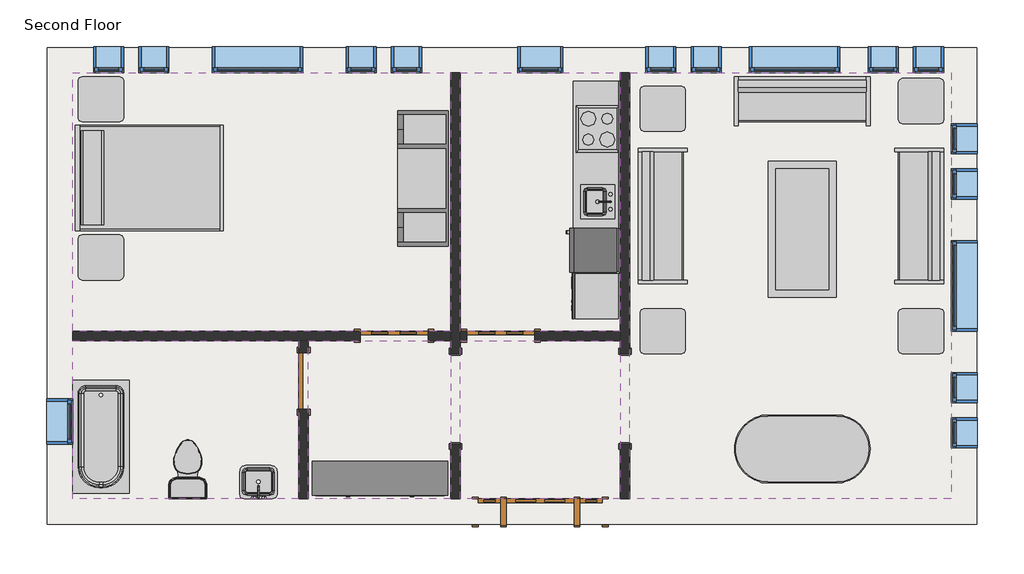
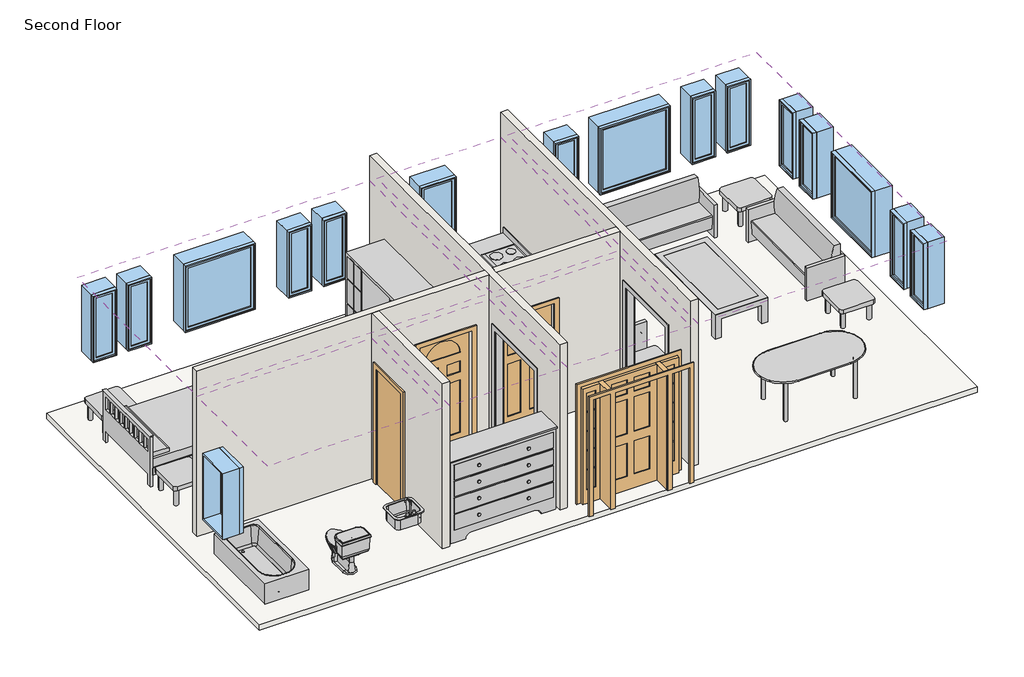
# One storey, incomplete: 17 windows, 15 furniture elements, 6 coverings, 6 proxies, 4 doors, 4 flow terminals, 4 walls, 1 slab.
"""IFC4 building model written with IfcOpenShell, lengths in millimetres."""

from ifc_helpers import new_model, si_unit, frame, origin, place, context, project, spatial, polyline, outline, extrude, faceted_brep, transform, mapped, element, save
from components import proxy_a6faaae8, proxy_45b28599, proxy_a6516e2b, proxy_f44482cc, proxy_c523a7b7, door_829da954, door_2e3b4da2, door_4d6c7550, door_ffdb1193, flow_terminal_871c2e40, flow_terminal_62a433f7, toilet_domestic_3d_toilet_domestic_3d_f7549cf7, toilet_domestic_3d_toilet_domestic_3d_183bbd19, tub_rectangular_3d_tub_rectangular_3d_c56944d8, furniture_096e7f55, furniture_dc2eca4b, furniture_7c473f12, furniture_cf0b6580, furniture_a4ffab56, furniture_cd93a443, furniture_2c34a4f9, furniture_3a588284, window_da97879f, window_d61ef850, window_60baf983, window_6eb97611

model = new_model("IFC4")

# Units and contexts
model_context = context("Model", 3, world=origin())
ifc_project = project(units=[si_unit("LENGTHUNIT", "METRE", prefix="MILLI")], contexts=[model_context])

# Site, building, storey
site = spatial("IfcSite", under=ifc_project)
building = spatial("IfcBuilding", under=site)
storey = spatial("IfcBuildingStorey", under=building, Name="Second Floor", Elevation=3048.0)

# Proxies
placement = place(None, origin())
proxy_shape = proxy_a6faaae8(model_context)
element("IfcBuildingElementProxy", 1, Name="Cook Top-4 Unit2 : 22\" x 20\"", ObjectType="Cook Top-4 Unit2 : 22\" x 20\"", at=placement, inside=storey, context=model_context, shape_type="MappedRepresentation", body=[
    mapped(proxy_shape, transform((2840.1428612, 5164.2241162, 3048.0), x_axis=(0.0, -1.0000000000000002, 0.0), y_axis=(1.0000000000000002, 0.0, 0.0), z_axis=(0.0, 0.0, 1.0))),
])
proxy_2_shape = proxy_45b28599(model_context)
element("IfcBuildingElementProxy", 2, Name="Dishwasher : 24\" x 24\" x 34\"", ObjectType="Dishwasher : 24\" x 24\" x 34\"", at=placement, inside=storey, context=model_context, shape_type="MappedRepresentation", body=[
    mapped(proxy_2_shape, transform((2548.2932964, 3298.6415847, 3048.0), x_axis=(0.0, -1.0000000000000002, 0.0), y_axis=(1.0000000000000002, 0.0, 0.0), z_axis=(0.0, 0.0, 1.0))),
])
proxy_3_shape = proxy_a6516e2b(model_context)
element("IfcBuildingElementProxy", 3, Name="Kitchenette - Medium : 8' 6\"", ObjectType="Kitchenette - Medium : 8' 6\"", at=placement, inside=storey, context=model_context, shape_type="MappedRepresentation", body=[
    mapped(proxy_3_shape, transform((3144.9428612, 4535.2618211, 3048.0), x_axis=(0.0, -1.0000000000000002, 0.0), y_axis=(1.0000000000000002, 0.0, 0.0), z_axis=(0.0, 0.0, 1.0))),
])
proxy_4_shape = proxy_f44482cc(model_context)
element("IfcBuildingElementProxy", 4, Name="Passage Opening-Cased : 48\" x 84\"", ObjectType="Passage Opening-Cased : 48\" x 84\"", at=placement, inside=storey, context=model_context, shape_type="MappedRepresentation", body=[
    mapped(proxy_4_shape, transform((3208.4428612, 1537.2944757, 3048.0), x_axis=(0.0, 1.0, 0.0), y_axis=(-1.0, 0.0, 0.0), z_axis=(0.0, 0.0, 1.0))),
])
element("IfcBuildingElementProxy", 5, Name="Passage Opening-Cased : 48\" x 84\"", ObjectType="Passage Opening-Cased : 48\" x 84\"", at=placement, inside=storey, context=model_context, shape_type="MappedRepresentation", body=[
    mapped(proxy_4_shape, transform((922.4428612, 1537.2944757, 3048.0), x_axis=(0.0, 1.0, 0.0), y_axis=(-1.0, 0.0, 0.0), z_axis=(0.0, 0.0, 1.0))),
])
proxy_5_shape = proxy_c523a7b7(model_context)
element("IfcBuildingElementProxy", 6, Name="Refrigerator : 24\" x 25\" LH", ObjectType="Refrigerator : 24\" x 25\" LH", at=placement, inside=storey, context=model_context, shape_type="MappedRepresentation", body=[
    mapped(proxy_5_shape, transform((2794.4938897, 3532.2741162, 3048.0), x_axis=(0.0, -1.0000000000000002, 0.0), y_axis=(1.0000000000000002, 0.0, 0.0), z_axis=(0.0, 0.0, 1.0))),
])

# Coverings
element("IfcCovering", 7, ObjectType="GWB on Mtl. Stud", at=placement, inside=storey, context=model_context, shape_type="SweptSolid", body=[
    extrude(outline(polyline([(-4235.3446388, 5924.893319), (858.9428612, 5924.893319), (858.9428612, 2441.918319), (-4235.3446388, 2441.918319), (-4235.3446388, 5924.893319)])), frame((0.0, 0.0, 5638.8), z_axis=(0.0, 0.0, 1.0), x_axis=(1.0, 0.0, 0.0)), (0.0, 0.0, 1.0), 107.95),
])
element("IfcCovering", 8, ObjectType="GWB on Mtl. Stud", at=placement, inside=storey, context=model_context, shape_type="SweptSolid", body=[
    extrude(outline(polyline([(-1187.3446388, 2314.918319), (-1187.3446388, 181.318319), (-4235.3446388, 181.318319), (-4235.3446388, 2314.918319), (-1187.3446388, 2314.918319)])), frame((0.0, 0.0, 5638.8), z_axis=(0.0, 0.0, 1.0), x_axis=(1.0, 0.0, 0.0)), (0.0, 0.0, 1.0), 107.95),
])
element("IfcCovering", 9, ObjectType="GWB on Mtl. Stud", at=placement, inside=storey, context=model_context, shape_type="SweptSolid", body=[
    extrude(outline(polyline([(858.9428612, 181.318319), (-1060.3446388, 181.318319), (-1060.3446388, 2314.918319), (858.9428612, 2314.918319), (858.9428612, 181.318319)])), frame((0.0, 0.0, 5638.8), z_axis=(0.0, 0.0, 1.0), x_axis=(1.0, 0.0, 0.0)), (0.0, 0.0, 1.0), 107.95),
])
element("IfcCovering", 10, ObjectType="GWB on Mtl. Stud", at=placement, inside=storey, context=model_context, shape_type="SweptSolid", body=[
    extrude(outline(polyline([(3144.9428612, 181.318319), (985.9428612, 181.318319), (985.9428612, 2314.918319), (3144.9428612, 2314.918319), (3144.9428612, 181.318319)])), frame((0.0, 0.0, 5638.8), z_axis=(0.0, 0.0, 1.0), x_axis=(1.0, 0.0, 0.0)), (0.0, 0.0, 1.0), 107.95),
])
element("IfcCovering", 11, ObjectType="GWB on Mtl. Stud", at=placement, inside=storey, context=model_context, shape_type="SweptSolid", body=[
    extrude(outline(polyline([(985.9428612, 2441.918319), (985.9428612, 5924.893319), (3144.9428612, 5924.893319), (3144.9428612, 2441.918319), (985.9428612, 2441.918319)])), frame((0.0, 0.0, 5638.8), z_axis=(0.0, 0.0, 1.0), x_axis=(1.0, 0.0, 0.0)), (0.0, 0.0, 1.0), 107.95),
])
element("IfcCovering", 12, ObjectType="GWB on Mtl. Stud", at=placement, inside=storey, context=model_context, shape_type="SweptSolid", body=[
    extrude(outline(polyline([(3271.9428612, 181.318319), (3271.9428612, 5924.893319), (7604.2303612, 5924.893319), (7604.2303612, 181.318319), (3271.9428612, 181.318319)])), frame((0.0, 0.0, 5638.8), z_axis=(0.0, 0.0, 1.0), x_axis=(1.0, 0.0, 0.0)), (0.0, 0.0, 1.0), 107.95),
])

# Doors
door_shape = door_829da954(model_context)
element("IfcDoor", 13, ObjectType="Single-Decorative 2 : 36\" x 84\"", at=placement, inside=storey, context=model_context, shape_type="MappedRepresentation", body=[
    mapped(door_shape, transform((1532.0428612, 2378.418319, 3048.0), x_axis=(-1.0, 0.0, 0.0), y_axis=(0.0, -1.0, 0.0), z_axis=(0.0, 0.0, 1.0))),
])
door_2_shape = door_2e3b4da2(model_context)
element("IfcDoor", 14, ObjectType="Single-Decorative 2 : 36\" x 84\"", at=placement, inside=storey, context=model_context, shape_type="MappedRepresentation", body=[
    mapped(door_2_shape, transform((95.3553612, 2378.418319, 3048.0), x_axis=(1.0, 0.0, 0.0), y_axis=(0.0, 1.0, 0.0), z_axis=(0.0, 0.0, 1.0))),
])
door_3_shape = door_4d6c7550(model_context)
element("IfcDoor", 15, ObjectType="Single-Flush : 30\" x 84\"", at=placement, inside=storey, context=model_context, shape_type="MappedRepresentation", body=[
    mapped(door_3_shape, transform((-1123.8446388, 1768.818319, 3048.0), x_axis=(0.0, 1.0, 0.0), y_axis=(-1.0, 0.0, 0.0), z_axis=(0.0, 0.0, 1.0))),
])
door_4_shape = door_ffdb1193(model_context)
element("IfcDoor", 16, ObjectType="Single-Raised Panel with Sidelights : 36\" x 84\"", at=placement, inside=storey, context=model_context, shape_type="MappedRepresentation", body=[
    mapped(door_4_shape, transform((2065.4428612, 5.105819, 3048.0), x_axis=(1.0, 0.0, 0.0), y_axis=(0.0, 1.0, 0.0), z_axis=(0.0, 0.0, 1.0))),
])

# Flow terminals
flow_terminal_shape = flow_terminal_871c2e40(model_context)
element("IfcFlowTerminal", 17, ObjectType="Sink Kitchen-Island : 18\" x 18\"", at=placement, inside=storey, context=model_context, shape_type="MappedRepresentation", body=[
    mapped(flow_terminal_shape, transform((2837.7974601, 4202.0133567, 3033.6), x_axis=(0.0, -1.0000000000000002, 0.0), y_axis=(1.0000000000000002, 0.0, 0.0), z_axis=(0.0, 0.0, 1.0))),
])
flow_terminal_2_shape = flow_terminal_62a433f7(model_context)
element("IfcFlowTerminal", 18, ObjectType="Sink Vanity-Square : 20\" x 18\"", at=placement, inside=storey, context=model_context, shape_type="MappedRepresentation", body=[
    mapped(flow_terminal_2_shape, transform((-1717.7553983, 361.4637201, 3048.0), x_axis=(-1.0, 0.0, 0.0), y_axis=(0.0, -1.0, 0.0), z_axis=(0.0, 0.0, 1.0))),
])
toilet_domestic_3d_toilet_domestic_3d_shape = toilet_domestic_3d_toilet_domestic_3d_f7549cf7(model_context)
toilet_domestic_3d_toilet_domestic_3d_2_shape = toilet_domestic_3d_toilet_domestic_3d_183bbd19(model_context)
element("IfcFlowTerminal", 19, ObjectType="Toilet-Domestic-3D : Toilet-Domestic-3D", at=placement, inside=storey, context=model_context, shape_type="MappedRepresentation", body=[
    mapped(toilet_domestic_3d_toilet_domestic_3d_shape, transform((-2684.3571388, 676.0143464, 3048.0), x_axis=(-1.0000000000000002, 0.0, 0.0), y_axis=(0.0, -1.0000000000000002, 0.0), z_axis=(0.0, 0.0, 1.0))),
    mapped(toilet_domestic_3d_toilet_domestic_3d_2_shape, transform((-2684.3571388, 676.0143464, 3048.0), x_axis=(-1.0000000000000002, 0.0, 0.0), y_axis=(0.0, -1.0000000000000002, 0.0), z_axis=(0.0, 0.0, 1.0))),
])
tub_rectangular_3d_tub_rectangular_3d_shape = tub_rectangular_3d_tub_rectangular_3d_c56944d8(model_context)
element("IfcFlowTerminal", 20, ObjectType="Tub-Rectangular-3D : Tub-Rectangular-3D", at=placement, inside=storey, context=model_context, shape_type="MappedRepresentation", body=[
    mapped(tub_rectangular_3d_tub_rectangular_3d_shape, transform((-4411.5571388, 672.5028503, 3048.0), x_axis=(0.0, -1.0, 0.0), y_axis=(1.0, 0.0, 0.0), z_axis=(0.0, 0.0, 1.0))),
])

# Furniture
furniture_shape = furniture_096e7f55(model_context)
element("IfcFurniture", 21, ObjectType="Bed-Shaker : Double 56\" x 78\"", at=placement, inside=storey, context=model_context, shape_type="MappedRepresentation", body=[
    mapped(furniture_shape, transform((-4190.1839627, 4526.7496884, 3048.0), x_axis=(0.0, 1.0000000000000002, 0.0), y_axis=(-1.0000000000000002, 0.0, 0.0), z_axis=(0.0, 0.0, 1.0))),
])
furniture_2_shape = furniture_dc2eca4b(model_context)
element("IfcFurniture", 22, ObjectType="Counter Top w Sink Hole : 24\" Depth", at=placement, inside=storey, context=model_context, shape_type="MappedRepresentation", body=[
    mapped(furniture_2_shape, transform((3144.9428612, 4611.4618211, 3033.6), x_axis=(0.0, -1.0000000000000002, 0.0), y_axis=(1.0000000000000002, 0.0, 0.0), z_axis=(0.0, 0.0, 1.0))),
])
furniture_3_shape = furniture_7c473f12(model_context)
element("IfcFurniture", 23, ObjectType="Dresser : 72\" x 60\" x 18\"", at=placement, inside=storey, context=model_context, shape_type="MappedRepresentation", body=[
    mapped(furniture_3_shape, transform((175.636121, 823.8812731, 3048.0), x_axis=(1.0, 0.0, 0.0), y_axis=(0.0, 1.0, 0.0), z_axis=(0.0, 0.0, 1.0))),
])
furniture_4_shape = furniture_cf0b6580(model_context)
element("IfcFurniture", 24, ObjectType="Entertainment Center : 72\" x 72\" x 24\"", at=placement, inside=storey, context=model_context, shape_type="MappedRepresentation", body=[
    mapped(furniture_4_shape, transform((927.2053612, 4500.905819, 3048.0), x_axis=(0.0, -1.0000000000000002, 0.0), y_axis=(1.0000000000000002, 0.0, 0.0), z_axis=(0.0, 0.0, 1.0))),
])
furniture_5_shape = furniture_a4ffab56(model_context)
element("IfcFurniture", 25, ObjectType="Sofa : 72\"", at=placement, inside=storey, context=model_context, shape_type="MappedRepresentation", body=[
    mapped(furniture_5_shape, transform((5525.6723694, 5396.1517206, 3048.0), x_axis=(1.0, 0.0, 0.0), y_axis=(0.0, 1.0, 0.0), z_axis=(0.0, 0.0, 1.0))),
])
element("IfcFurniture", 26, ObjectType="Sofa : 72\"", at=placement, inside=storey, context=model_context, shape_type="MappedRepresentation", body=[
    mapped(furniture_5_shape, transform((7024.6887628, 4063.2763108, 3048.0), x_axis=(0.0, -1.0, 0.0), y_axis=(1.0, 0.0, 0.0), z_axis=(0.0, 0.0, 1.0))),
])
element("IfcFurniture", 27, ObjectType="Sofa : 72\"", at=placement, inside=storey, context=model_context, shape_type="MappedRepresentation", body=[
    mapped(furniture_5_shape, transform((3862.5969596, 3922.5353272, 3048.0), x_axis=(0.0, 1.0000000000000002, 0.0), y_axis=(-1.0000000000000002, 0.0, 0.0), z_axis=(0.0, 0.0, 1.0))),
])
furniture_6_shape = furniture_cd93a443(model_context)
element("IfcFurniture", 28, ObjectType="Table-Coffee : 36\" x 72\" x 18\"", at=placement, inside=storey, context=model_context, shape_type="MappedRepresentation", body=[
    mapped(furniture_6_shape, transform((5500.8317834, 3833.3715857, 3048.0), x_axis=(0.0, -1.0, 0.0), y_axis=(1.0, 0.0, 0.0), z_axis=(0.0, 0.0, 1.0))),
])
furniture_7_shape = furniture_2c34a4f9(model_context)
element("IfcFurniture", 29, ObjectType="Table-Dining Oval : 36\" x 72\"", at=placement, inside=storey, context=model_context, shape_type="MappedRepresentation", body=[
    mapped(furniture_7_shape, transform((5997.8625333, 1212.5166797, 3048.0), x_axis=(1.0, 0.0, 0.0), y_axis=(0.0, 1.0, 0.0), z_axis=(0.0, 0.0, 1.0))),
])
furniture_8_shape = furniture_3a588284(model_context)
element("IfcFurniture", 30, ObjectType="Table-End : 24\" x 24\"", at=placement, inside=storey, context=model_context, shape_type="MappedRepresentation", body=[
    mapped(furniture_8_shape, transform((-4162.8782691, 5415.305819, 3048.0), x_axis=(1.0, 0.0, 0.0), y_axis=(0.0, 1.0, 0.0), z_axis=(0.0, 0.0, 1.0))),
])
element("IfcFurniture", 31, ObjectType="Table-End : 24\" x 24\"", at=placement, inside=storey, context=model_context, shape_type="MappedRepresentation", body=[
    mapped(furniture_8_shape, transform((-4162.8782691, 3283.293319, 3048.0), x_axis=(1.0, 0.0, 0.0), y_axis=(0.0, 1.0, 0.0), z_axis=(0.0, 0.0, 1.0))),
])
element("IfcFurniture", 32, ObjectType="Table-End : 24\" x 24\"", at=placement, inside=storey, context=model_context, shape_type="MappedRepresentation", body=[
    mapped(furniture_8_shape, transform((3407.9092309, 5288.305819, 3048.0), x_axis=(1.0, 0.0, 0.0), y_axis=(0.0, 1.0, 0.0), z_axis=(0.0, 0.0, 1.0))),
])
element("IfcFurniture", 33, ObjectType="Table-End : 24\" x 24\"", at=placement, inside=storey, context=model_context, shape_type="MappedRepresentation", body=[
    mapped(furniture_8_shape, transform((6887.7092309, 5389.905819, 3048.0), x_axis=(1.0, 0.0, 0.0), y_axis=(0.0, 1.0, 0.0), z_axis=(0.0, 0.0, 1.0))),
])
element("IfcFurniture", 34, ObjectType="Table-End : 24\" x 24\"", at=placement, inside=storey, context=model_context, shape_type="MappedRepresentation", body=[
    mapped(furniture_8_shape, transform((3407.9092309, 2289.518319, 3048.0), x_axis=(1.0, 0.0, 0.0), y_axis=(0.0, 1.0, 0.0), z_axis=(0.0, 0.0, 1.0))),
])
element("IfcFurniture", 35, ObjectType="Table-End : 24\" x 24\"", at=placement, inside=storey, context=model_context, shape_type="MappedRepresentation", body=[
    mapped(furniture_8_shape, transform((6887.7092309, 2289.518319, 3048.0), x_axis=(1.0, 0.0, 0.0), y_axis=(0.0, 1.0, 0.0), z_axis=(0.0, 0.0, 1.0))),
])

# Slab
element("IfcSlab", 36, ObjectType="LW Concrete on Metal Deck", at=placement, inside=storey, context=model_context, shape_type="SweptSolid", body=[
    extrude(outline(polyline([(7943.9553612, 6264.618319), (7943.9553612, -158.406681), (-4575.0696388, -158.406681), (-4575.0696388, 6264.618319), (7943.9553612, 6264.618319)])), frame((0.0, 0.0, 2943.225), z_axis=(0.0, 0.0, 1.0), x_axis=(1.0, 0.0, 0.0)), (0.0, 0.0, 1.0), 104.775),
])

# Walls
element("IfcWall", 37, ObjectType="Interior - 5\" Partition (2-hr)", at=placement, inside=storey, context=model_context, shape_type="Brep", body=[
    faceted_brep([(3144.9428612, 5924.893319, 3048.0), (3144.9428612, 2441.918319, 3048.0), (3144.9428612, 2314.918319, 3048.0), (3144.9428612, 2138.705819, 3048.0), (3144.9428612, 2138.705819, 5181.6), (3144.9428612, 919.505819, 5181.6), (3144.9428612, 919.505819, 3048.0), (3144.9428612, 181.318319, 3048.0), (3144.9428612, 181.318319, 6096.0), (3144.9428612, 2314.918319, 6096.0), (3144.9428612, 2441.918319, 6096.0), (3144.9428612, 5924.893319, 6096.0), (3271.9428612, 2138.705819, 5181.6), (3271.9428612, 2138.705819, 3048.0), (3271.9428612, 5924.893319, 3048.0), (3271.9428612, 5924.893319, 6096.0), (3271.9428612, 181.318319, 6096.0), (3271.9428612, 181.318319, 3048.0), (3271.9428612, 919.505819, 3048.0), (3271.9428612, 919.505819, 5181.6)], [[[0, 1, 2, 3, 4, 5, 6, 7, 8, 9, 10, 11]], [[12, 13, 14, 15, 16, 17, 18, 19]], [[18, 17, 7, 6]], [[14, 13, 3, 2, 1, 0]], [[11, 10, 9, 8, 16, 15]], [[6, 5, 19, 18]], [[4, 3, 13, 12]], [[5, 4, 12, 19]], [[0, 11, 15, 14]], [[8, 7, 17, 16]]]),
])
element("IfcWall", 38, ObjectType="Interior - 5\" Partition (2-hr)", at=placement, inside=storey, context=model_context, shape_type="Brep", body=[
    faceted_brep([(858.9428612, 5924.893319, 3048.0), (858.9428612, 2441.918319, 3048.0), (858.9428612, 2314.918319, 3048.0), (858.9428612, 2138.705819, 3048.0), (858.9428612, 2138.705819, 5181.6), (858.9428612, 919.505819, 5181.6), (858.9428612, 919.505819, 3048.0), (858.9428612, 181.318319, 3048.0), (858.9428612, 181.318319, 6096.0), (858.9428612, 2314.918319, 6096.0), (858.9428612, 2441.918319, 6096.0), (858.9428612, 5924.893319, 6096.0), (985.9428612, 2138.705819, 5181.6), (985.9428612, 2138.705819, 3048.0), (985.9428612, 2314.918319, 3048.0), (985.9428612, 2441.918319, 3048.0), (985.9428612, 5924.893319, 3048.0), (985.9428612, 5924.893319, 6096.0), (985.9428612, 2441.918319, 6096.0), (985.9428612, 2314.918319, 6096.0), (985.9428612, 181.318319, 6096.0), (985.9428612, 181.318319, 3048.0), (985.9428612, 919.505819, 3048.0), (985.9428612, 919.505819, 5181.6)], [[[0, 1, 2, 3, 4, 5, 6, 7, 8, 9, 10, 11]], [[12, 13, 14, 15, 16, 17, 18, 19, 20, 21, 22, 23]], [[22, 21, 7, 6]], [[16, 15, 14, 13, 3, 2, 1, 0]], [[11, 10, 9, 8, 20, 19, 18, 17]], [[6, 5, 23, 22]], [[4, 3, 13, 12]], [[5, 4, 12, 23]], [[0, 11, 17, 16]], [[8, 7, 21, 20]]]),
])
element("IfcWall", 39, ObjectType="Interior - 5\" Partition (2-hr)", at=placement, inside=storey, context=model_context, shape_type="Brep", body=[
    faceted_brep([(3144.9428612, 2314.918319, 3048.0), (3144.9428612, 2314.918319, 6096.0), (985.9428612, 2314.918319, 6096.0), (985.9428612, 2314.918319, 3048.0), (1074.8428612, 2314.918319, 3048.0), (1074.8428612, 2314.918319, 5181.6), (1989.2428612, 2314.918319, 5181.6), (1989.2428612, 2314.918319, 3048.0), (3144.9428612, 2441.918319, 6096.0), (3144.9428612, 2441.918319, 3048.0), (1989.2428612, 2441.918319, 3048.0), (1989.2428612, 2441.918319, 5181.6), (1074.8428612, 2441.918319, 5181.6), (1074.8428612, 2441.918319, 3048.0), (985.9428612, 2441.918319, 3048.0), (985.9428612, 2441.918319, 6096.0)], [[[0, 1, 2, 3, 4, 5, 6, 7]], [[8, 9, 10, 11, 12, 13, 14, 15]], [[9, 0, 7, 10]], [[13, 4, 3, 14]], [[1, 8, 15, 2]], [[1, 0, 9, 8]], [[3, 2, 15, 14]], [[5, 4, 13, 12]], [[6, 5, 12, 11]], [[7, 6, 11, 10]]]),
    faceted_brep([(552.5553612, 2314.918319, 5181.6), (552.5553612, 2314.918319, 3048.0), (858.9428612, 2314.918319, 3048.0), (858.9428612, 2314.918319, 6096.0), (-1060.3446388, 2314.918319, 6096.0), (-1187.3446388, 2314.918319, 6096.0), (-4235.3446388, 2314.918319, 6096.0), (-4235.3446388, 2314.918319, 3048.0), (-1187.3446388, 2314.918319, 3048.0), (-1060.3446388, 2314.918319, 3048.0), (-361.8446388, 2314.918319, 3048.0), (-361.8446388, 2314.918319, 5181.6), (552.5553612, 2441.918319, 3048.0), (552.5553612, 2441.918319, 5181.6), (-361.8446388, 2441.918319, 5181.6), (-361.8446388, 2441.918319, 3048.0), (-4235.3446388, 2441.918319, 3048.0), (-4235.3446388, 2441.918319, 6096.0), (858.9428612, 2441.918319, 6096.0), (858.9428612, 2441.918319, 3048.0)], [[[0, 1, 2, 3, 4, 5, 6, 7, 8, 9, 10, 11]], [[12, 13, 14, 15, 16, 17, 18, 19]], [[1, 12, 19, 2]], [[15, 10, 9, 8, 7, 16]], [[17, 6, 5, 4, 3, 18]], [[3, 2, 19, 18]], [[13, 12, 1, 0]], [[14, 13, 0, 11]], [[15, 14, 11, 10]], [[7, 6, 17, 16]]]),
])
element("IfcWall", 40, ObjectType="Interior - 5\" Partition (2-hr)", at=placement, inside=storey, context=model_context, shape_type="SweptSolid", body=[
    extrude(outline(polyline([(2314.918319, 3048.0), (2149.818319, 3048.0), (2149.818319, 5181.6), (1387.818319, 5181.6), (1387.818319, 3048.0), (181.318319, 3048.0), (181.318319, 6096.0), (2314.918319, 6096.0), (2314.918319, 3048.0)])), frame((-1187.3446388, 0.0, 0.0), z_axis=(1.0, 0.0, 0.0), x_axis=(0.0, 1.0, 0.0)), (0.0, 0.0, 1.0), 127.0),
])

# Windows
window_shape = window_da97879f(model_context)
element("IfcWindow", 41, ObjectType="Fixed : 16\" x 48\"", at=placement, inside=storey, context=model_context, shape_type="MappedRepresentation", body=[
    mapped(window_shape, transform((-3789.2571388, 6101.105819, 3048.0), x_axis=(-1.0, 0.0, 0.0), y_axis=(0.0, -1.0, 0.0), z_axis=(0.0, 0.0, 1.0))),
])
element("IfcWindow", 42, ObjectType="Fixed : 16\" x 48\"", at=placement, inside=storey, context=model_context, shape_type="MappedRepresentation", body=[
    mapped(window_shape, transform((-3179.6571388, 6101.105819, 3048.0), x_axis=(-1.0, 0.0, 0.0), y_axis=(0.0, -1.0, 0.0), z_axis=(0.0, 0.0, 1.0))),
])
element("IfcWindow", 43, ObjectType="Fixed : 16\" x 48\"", at=placement, inside=storey, context=model_context, shape_type="MappedRepresentation", body=[
    mapped(window_shape, transform((3652.9428612, 6101.105819, 3048.0), x_axis=(-1.0, 0.0, 0.0), y_axis=(0.0, -1.0, 0.0), z_axis=(0.0, 0.0, 1.0))),
])
element("IfcWindow", 44, ObjectType="Fixed : 16\" x 48\"", at=placement, inside=storey, context=model_context, shape_type="MappedRepresentation", body=[
    mapped(window_shape, transform((4262.5428612, 6101.105819, 3048.0), x_axis=(-1.0, 0.0, 0.0), y_axis=(0.0, -1.0, 0.0), z_axis=(0.0, 0.0, 1.0))),
])
element("IfcWindow", 45, ObjectType="Fixed : 16\" x 48\"", at=placement, inside=storey, context=model_context, shape_type="MappedRepresentation", body=[
    mapped(window_shape, transform((6650.1428612, 6101.105819, 3048.0), x_axis=(-1.0, 0.0, 0.0), y_axis=(0.0, -1.0, 0.0), z_axis=(0.0, 0.0, 1.0))),
])
element("IfcWindow", 46, ObjectType="Fixed : 16\" x 48\"", at=placement, inside=storey, context=model_context, shape_type="MappedRepresentation", body=[
    mapped(window_shape, transform((7259.7428612, 6101.105819, 3048.0), x_axis=(-1.0, 0.0, 0.0), y_axis=(0.0, -1.0, 0.0), z_axis=(0.0, 0.0, 1.0))),
])
element("IfcWindow", 47, ObjectType="Fixed : 16\" x 48\"", at=placement, inside=storey, context=model_context, shape_type="MappedRepresentation", body=[
    mapped(window_shape, transform((7780.4428612, 5072.405819, 3048.0), x_axis=(0.0, 1.0, 0.0), y_axis=(-1.0, 0.0, 0.0), z_axis=(0.0, 0.0, 1.0))),
])
element("IfcWindow", 48, ObjectType="Fixed : 16\" x 48\"", at=placement, inside=storey, context=model_context, shape_type="MappedRepresentation", body=[
    mapped(window_shape, transform((7780.4428612, 4462.805819, 3048.0), x_axis=(0.0, 1.0, 0.0), y_axis=(-1.0, 0.0, 0.0), z_axis=(0.0, 0.0, 1.0))),
])
element("IfcWindow", 49, ObjectType="Fixed : 16\" x 48\"", at=placement, inside=storey, context=model_context, shape_type="MappedRepresentation", body=[
    mapped(window_shape, transform((7780.4428612, 1719.605819, 3048.0), x_axis=(0.0, 1.0, 0.0), y_axis=(-1.0, 0.0, 0.0), z_axis=(0.0, 0.0, 1.0))),
])
element("IfcWindow", 50, ObjectType="Fixed : 16\" x 48\"", at=placement, inside=storey, context=model_context, shape_type="MappedRepresentation", body=[
    mapped(window_shape, transform((7780.4428612, 1110.005819, 3048.0), x_axis=(0.0, 1.0, 0.0), y_axis=(-1.0, 0.0, 0.0), z_axis=(0.0, 0.0, 1.0))),
])
window_2_shape = window_d61ef850(model_context)
element("IfcWindow", 51, ObjectType="Fixed : 16\" x 48\"", at=placement, inside=storey, context=model_context, shape_type="MappedRepresentation", body=[
    mapped(window_2_shape, transform((300.1428612, 6101.105819, 3048.0), x_axis=(1.0, 0.0, 0.0), y_axis=(0.0, 1.0, 0.0), z_axis=(0.0, 0.0, 1.0))),
])
element("IfcWindow", 52, ObjectType="Fixed : 16\" x 48\"", at=placement, inside=storey, context=model_context, shape_type="MappedRepresentation", body=[
    mapped(window_2_shape, transform((-309.4571388, 6101.105819, 3048.0), x_axis=(1.0, 0.0, 0.0), y_axis=(0.0, 1.0, 0.0), z_axis=(0.0, 0.0, 1.0))),
])
window_3_shape = window_60baf983(model_context)
element("IfcWindow", 53, ObjectType="Fixed : 24\" x 48\"", at=placement, inside=storey, context=model_context, shape_type="MappedRepresentation", body=[
    mapped(window_3_shape, transform((2027.3428612, 6101.105819, 3048.0), x_axis=(-1.0, 0.0, 0.0), y_axis=(0.0, -1.0, 0.0), z_axis=(0.0, 0.0, 1.0))),
])
element("IfcWindow", 54, ObjectType="Fixed : 24\" x 48\"", at=placement, inside=storey, context=model_context, shape_type="MappedRepresentation", body=[
    mapped(window_3_shape, transform((-4411.5571388, 1186.205819, 3048.0), x_axis=(0.0, -1.0, 0.0), y_axis=(1.0, 0.0, 0.0), z_axis=(0.0, 0.0, 1.0))),
])
window_4_shape = window_6eb97611(model_context)
element("IfcWindow", 55, ObjectType="Fixed : 48\" x 48\"", at=placement, inside=storey, context=model_context, shape_type="MappedRepresentation", body=[
    mapped(window_4_shape, transform((-1782.6571388, 6101.105819, 3048.0), x_axis=(-1.0, 0.0, 0.0), y_axis=(0.0, -1.0, 0.0), z_axis=(0.0, 0.0, 1.0))),
])
element("IfcWindow", 56, ObjectType="Fixed : 48\" x 48\"", at=placement, inside=storey, context=model_context, shape_type="MappedRepresentation", body=[
    mapped(window_4_shape, transform((5456.3428612, 6101.105819, 3048.0), x_axis=(-1.0, 0.0, 0.0), y_axis=(0.0, -1.0, 0.0), z_axis=(0.0, 0.0, 1.0))),
])
element("IfcWindow", 57, ObjectType="Fixed : 48\" x 48\"", at=placement, inside=storey, context=model_context, shape_type="MappedRepresentation", body=[
    mapped(window_4_shape, transform((7780.4428612, 3091.205819, 3048.0), x_axis=(0.0, 1.0, 0.0), y_axis=(-1.0, 0.0, 0.0), z_axis=(0.0, 0.0, 1.0))),
])

save(model, "model.ifc")
